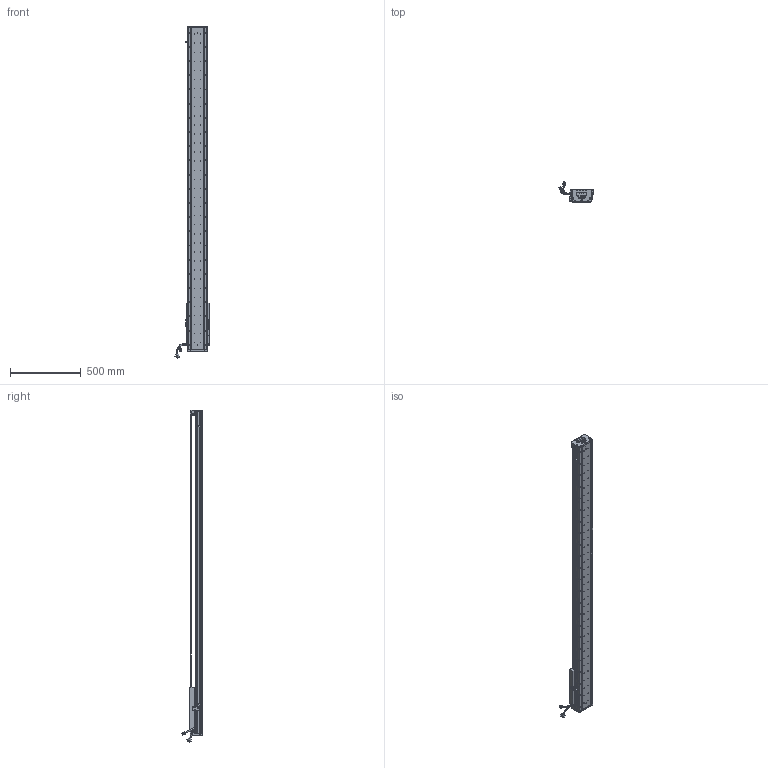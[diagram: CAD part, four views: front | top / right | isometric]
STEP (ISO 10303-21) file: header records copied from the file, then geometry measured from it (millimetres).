
FILE_DESCRIPTION (( 'STEP AP203' ), '1' );
FILE_NAME ('Z4-RY140D-1-L500-B-K.SLDASM_1900.step', '2021-05-17T08:17:54', ( '盈信电脑' ), ( '东莞市道滘镇水果街19号' ), 'SwSTEP 2.0', 'SolidWorks 2016', '' );
FILE_SCHEMA (( 'CONFIG_CONTROL_DESIGN' ));
Length unit declared in the file: millimetre
Products named in the file (36): SCREW-M1.7; SCALE-Part-1; LABEL-Part-1; 140雄赽晤鎢ん堤盄; SEAL; 140蚥薯蝶輸; Z4-RY140-L500直线电机模组底座_1900; 詩湍奻揤裔; SCREW-M1.7-1; Z4-RY140圉猾敕臏賑輸(21遴); LABEL; SCREW-M1.6-1; PSLH080_PSLF2; COVER; SEAL-Part-1; 詩湍狟揤裔; HARNESS-Part-2; Z4-RY140-L500詩湍100mm遵_1900; HARNESS-Part-1; SCREW-M1.6-2; HOLDER0; SCALE; 140-Z-臏賑輸盄裔(21遴); 覜茼ん672; Z4-RY140D-1-L500-B-K.SLDASM_1900; SCREW-M1.6-3; SCREW-M1.6; 080黍杅芛假蚾釱21遴; SCALE-Part-2; SHIELDPLATE; COVER-Part-1; Z-140詩湍傷裔啣; Z-RY140感应器672光电感应片; HARNESS; 榋妏寠巭燃_暯_M2_2; PBU_SHEET
Assembly tree (41 placements, depth 4):
  Z4-RY140D-1-L500-B-K.SLDASM_1900
    Z4-RY140-L500直线电机模组底座_1900
    Z-RY140感应器672光电感应片
    Z4-RY140圉猾敕臏賑輸(21遴)
    覜茼ん672  x3
    Z4-RY140-L500詩湍100mm遵_1900
    PSLH080_PSLF2
      SCALE
        SCALE-Part-1
        SCALE-Part-2
      HARNESS
        HARNESS-Part-1
        HARNESS-Part-2
      LABEL
        LABEL-Part-1
      COVER
        COVER-Part-1
      SEAL
        SEAL-Part-1
      榋妏寠巭燃_暯_M2_2
      SHIELDPLATE
      SCREW-M1.7
      SCREW-M1.7-1
      PBU_SHEET
      SCREW-M1.6
      SCREW-M1.6-1
      SCREW-M1.6-2
      SCREW-M1.6-3
      HOLDER0
    080黍杅芛假蚾釱21遴
    140-Z-臏賑輸盄裔(21遴)
    Z-140詩湍傷裔啣  x2
    詩湍狟揤裔  x2
    詩湍奻揤裔  x2
    140蚥薯蝶輸  x2
    140雄赽晤鎢ん堤盄
Bounding box: 239.84 x 143.88 x 2340.87 mm (x, y, z)
Volume: 7822407.1 mm3; surface area: 2015448.2 mm2
Topology: 36 solids, 36 shells, 3912 faces, 10594 edges, 6711 vertices
Faces by surface type: cylinder 2080, plane 1328, cone 382, torus 69, bspline 53
Entity records: 122818 total; most frequent: CARTESIAN_POINT 34217, ORIENTED_EDGE 18148, DIRECTION 16958, EDGE_CURVE 9074, AXIS2_PLACEMENT_3D 6300, VERTEX_POINT 5879, LINE 4358, VECTOR 4358
